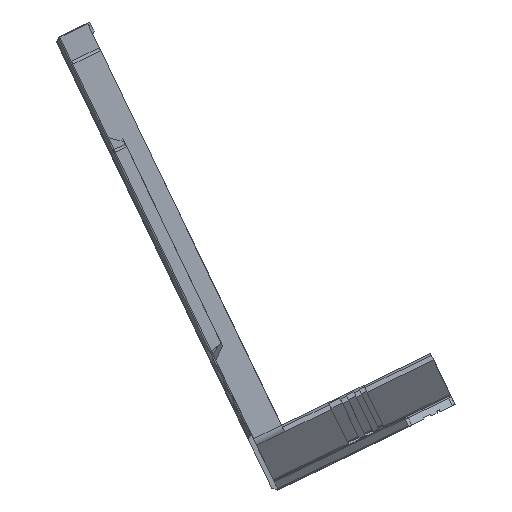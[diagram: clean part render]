
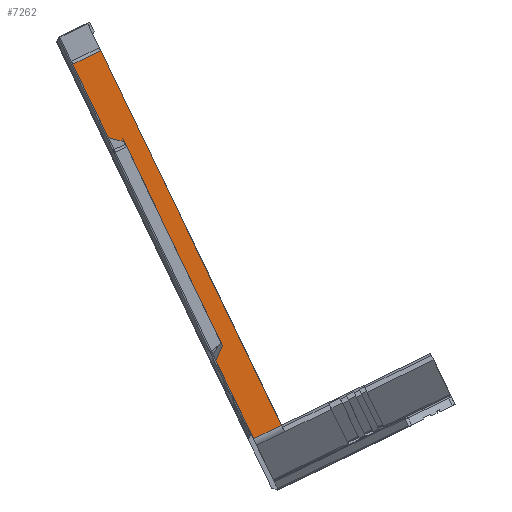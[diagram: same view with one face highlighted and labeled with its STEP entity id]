
A CAD part, left-side view. The second image highlights one B-rep face of the part: STEP entity #7262.
In plain terms, the highlighted planar face has unit normal (-1, 0, 0).
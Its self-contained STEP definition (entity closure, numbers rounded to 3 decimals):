
#1598=DIRECTION('',(0.,0.,-1.));
#1599=VECTOR('',#1598,7.4);
#1600=CARTESIAN_POINT('',(-165.,49.107,3.8));
#1601=LINE('',#1600,#1599);
#1656=DIRECTION('',(0.,1.,0.));
#1657=VECTOR('',#1656,20.743);
#1658=CARTESIAN_POINT('',(-165.,28.364,3.8));
#1659=LINE('',#1658,#1657);
#2853=DIRECTION('',(0.,1.,0.));
#2854=VECTOR('',#2853,19.458);
#2855=CARTESIAN_POINT('',(-165.,-50.096,3.8));
#2856=LINE('',#2855,#2854);
#2865=DIRECTION('',(0.,0.,1.));
#2866=VECTOR('',#2865,7.4);
#2867=CARTESIAN_POINT('',(-165.,-50.096,-3.6));
#2868=LINE('',#2867,#2866);
#2873=DIRECTION('',(0.,-1.,0.));
#2874=VECTOR('',#2873,53.914);
#2875=CARTESIAN_POINT('',(-165.,25.82,0.8));
#2876=LINE('',#2875,#2874);
#2877=DIRECTION('',(0.,-0.647,0.763));
#2878=VECTOR('',#2877,3.934);
#2879=CARTESIAN_POINT('',(-165.,-28.094,0.8));
#2880=LINE('',#2879,#2878);
#2881=DIRECTION('',(0.,1.,0.));
#2882=VECTOR('',#2881,99.204);
#2883=CARTESIAN_POINT('',(-165.,-50.096,-3.6));
#2884=LINE('',#2883,#2882);
#2885=DIRECTION('',(0.,-0.647,-0.763));
#2886=VECTOR('',#2885,3.934);
#2887=CARTESIAN_POINT('',(-165.,28.364,3.8));
#2888=LINE('',#2887,#2886);
#3679=CARTESIAN_POINT('',(-165.,49.107,-3.6));
#3680=VERTEX_POINT('',#3679);
#3681=CARTESIAN_POINT('',(-165.,-50.096,-3.6));
#3682=VERTEX_POINT('',#3681);
#3769=CARTESIAN_POINT('',(-165.,-30.638,3.8));
#3771=VERTEX_POINT('',#3769);
#3779=CARTESIAN_POINT('',(-165.,-50.096,3.8));
#3780=VERTEX_POINT('',#3779);
#3795=CARTESIAN_POINT('',(-165.,28.364,3.8));
#3796=VERTEX_POINT('',#3795);
#3797=CARTESIAN_POINT('',(-165.,49.107,3.8));
#3798=VERTEX_POINT('',#3797);
#3799=CARTESIAN_POINT('',(-165.,-28.094,0.8));
#3800=VERTEX_POINT('',#3799);
#3803=CARTESIAN_POINT('',(-165.,25.82,0.8));
#3804=VERTEX_POINT('',#3803);
#7247=CARTESIAN_POINT('',(-165.,50.101,1.4));
#7248=DIRECTION('',(-1.,0.,0.));
#7249=DIRECTION('',(0.,-1.,0.));
#7250=AXIS2_PLACEMENT_3D('',#7247,#7248,#7249);
#7251=PLANE('',#7250);
#7252=ORIENTED_EDGE('',*,*,#7107,.T.);
#7253=ORIENTED_EDGE('',*,*,#7183,.T.);
#7254=ORIENTED_EDGE('',*,*,#7203,.F.);
#7255=ORIENTED_EDGE('',*,*,#7239,.F.);
#7256=ORIENTED_EDGE('',*,*,#5886,.T.);
#7257=ORIENTED_EDGE('',*,*,#5908,.F.);
#7258=ORIENTED_EDGE('',*,*,#5965,.F.);
#7259=ORIENTED_EDGE('',*,*,#6992,.T.);
#7260=EDGE_LOOP('',(#7252,#7253,#7254,#7255,#7256,#7257,#7258,#7259));
#7261=FACE_OUTER_BOUND('',#7260,.F.);
#5886=EDGE_CURVE('',#3682,#3680,#2884,.T.);
#5908=EDGE_CURVE('',#3798,#3680,#1601,.T.);
#5965=EDGE_CURVE('',#3796,#3798,#1659,.T.);
#6992=EDGE_CURVE('',#3796,#3804,#2888,.T.);
#7107=EDGE_CURVE('',#3804,#3800,#2876,.T.);
#7183=EDGE_CURVE('',#3800,#3771,#2880,.T.);
#7203=EDGE_CURVE('',#3780,#3771,#2856,.T.);
#7239=EDGE_CURVE('',#3682,#3780,#2868,.T.);
#7262=ADVANCED_FACE('',(#7261),#7251,.T.);
